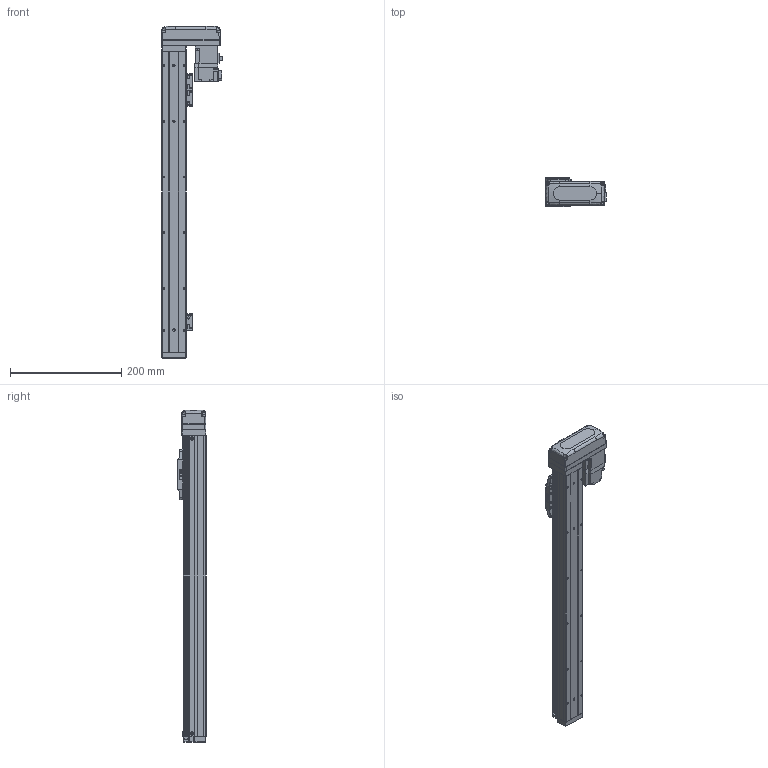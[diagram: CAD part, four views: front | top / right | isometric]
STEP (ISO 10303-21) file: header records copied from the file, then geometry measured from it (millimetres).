
FILE_DESCRIPTION (( 'STEP AP203' ), '1' );
FILE_NAME ('BTH40-400-BL-M05-C4.step', '2021-12-16T00:15:24', ( '微软用户' ), ( '微软中国' ), 'SwSTEP 2.0', 'SolidWorks 2020', '' );
FILE_SCHEMA (( 'CONFIG_CONTROL_DESIGN' ));
Length unit declared in the file: millimetre
Products named in the file (19): BTH50-028; BTH40-004; BTH50-023; BTH40-013; BTH40-001-50_BTH40-001-400; BTH50-024; HG-KR13; BTH40-003; GBT 70.1-M3℅6; GBT 70.3-M3℅6; BTH40-006; GBT96.1-2002 3×0.8; BTH40-027-1; BTH-M3X5X6; BTH40-022; BTH50-026; GBT70.1-2000 M3×16; GBT 70.1-M2.5×6; BTH40-400-BL-M05-C4
Assembly tree (47 placements, depth 2):
  BTH40-400-BL-M05-C4
    BTH40-001-50_BTH40-001-400
    BTH40-003
    BTH40-006
    BTH-M3X5X6  x8
    GBT70.1-2000 M3×16  x4
    BTH50-028  x2
    BTH50-023  x3
    BTH50-024  x3
    GBT 70.1-M3℅6  x6
    GBT96.1-2002 3×0.8  x6
    BTH40-022
    GBT 70.1-M2.5×6  x2
    BTH40-004
    BTH40-013
    HG-KR13
    GBT 70.3-M3℅6  x4
    BTH40-027-1
    BTH50-026
Bounding box: 108.8 x 52 x 596 mm (x, y, z)
Volume: 1130749.3 mm3; surface area: 206566.3 mm2
Topology: 49 solids, 49 shells, 1979 faces, 4647 edges, 2858 vertices
Faces by surface type: plane 1052, cylinder 491, cone 270, torus 128, bspline 34, sphere 4
Entity records: 39543 total; most frequent: CARTESIAN_POINT 7570, DIRECTION 6196, ORIENTED_EDGE 5940, EDGE_CURVE 2970, AXIS2_PLACEMENT_3D 2119, VECTOR 1958, LINE 1958, VERTEX_POINT 1845
